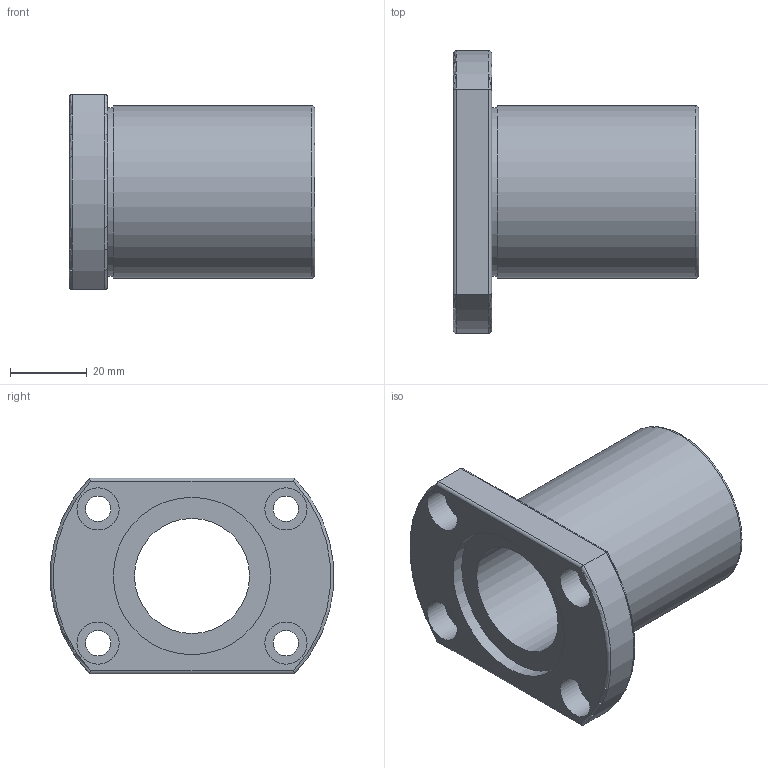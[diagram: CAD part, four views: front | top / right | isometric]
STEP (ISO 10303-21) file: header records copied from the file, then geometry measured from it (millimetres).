
FILE_DESCRIPTION( ( 'Unknown' ), '1' );
FILE_NAME( 'D:/累诀/己绕皋墨飘肺葱胶/11-04-06_档搁累己/01_府聪绢何教/LMH/LMH 30.stp', 'Unknown', ( 'Unknown' ), ( 'Unknown' ), 'PSStep 11.0', 'Unknown', ' ' );
FILE_SCHEMA( ( 'AUTOMOTIVE_DESIGN { 1 0 10303 214 1 1 1 1 }' ) );
Length unit declared in the file: millimetre
Products named in the file (1): 1
Bounding box: 64 x 73.74 x 51 mm (x, y, z)
Volume: 68052.5 mm3; surface area: 22420.5 mm2
Topology: 1 solids, 1 shells, 36 faces, 73 edges, 47 vertices
Faces by surface type: cylinder 19, plane 12, torus 5
Full cylindrical faces by diameter (mm): 6.6 x4, 11 x4, 30 x1, 41.058 x2, 44 x1, 45 x1
Entity records: 1210 total; most frequent: CARTESIAN_POINT 191, DIRECTION 156, ORIENTED_EDGE 110, AXIS2_PLACEMENT_3D 72, EDGE_LOOP 68, EDGE_CURVE 55, FACE_OUTER_BOUND 50, VERTEX_POINT 43
